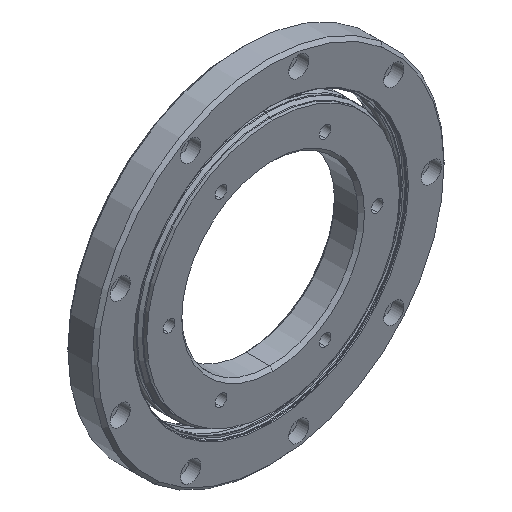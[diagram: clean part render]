
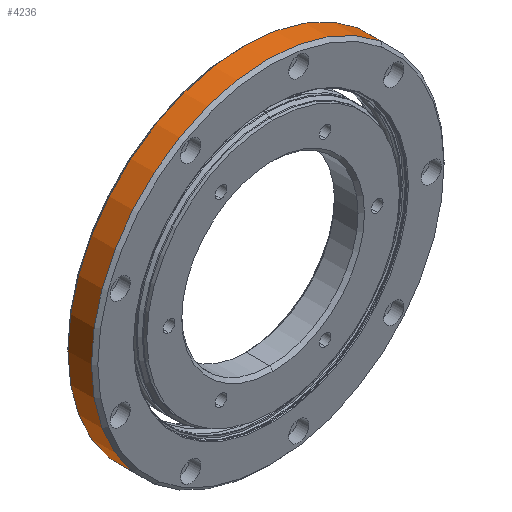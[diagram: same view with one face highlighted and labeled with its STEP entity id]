
A CAD part, isometric view. The second image highlights one B-rep face of the part: STEP entity #4236.
In plain terms, the highlighted cylindrical face has radius 82.55 mm (diameter 165.1 mm), a partial arc.
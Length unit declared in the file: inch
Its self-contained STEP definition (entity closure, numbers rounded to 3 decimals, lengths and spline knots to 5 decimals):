
#159 = DIRECTION ( 'NONE',  ( 0., -1., 0. ) ) ;
#534 = VERTEX_POINT ( 'NONE', #4100 ) ;
#637 = ORIENTED_EDGE ( 'NONE', *, *, #1142, .T. ) ;
#708 = ORIENTED_EDGE ( 'NONE', *, *, #3329, .T. ) ;
#962 = LINE ( 'NONE', #2940, #3757 ) ;
#963 = CYLINDRICAL_SURFACE ( 'NONE', #4409, 3.25 ) ;
#1033 = ORIENTED_EDGE ( 'NONE', *, *, #1224, .F. ) ;
#1088 = CARTESIAN_POINT ( 'NONE',  ( 0., 0., 0. ) ) ;
#1142 = EDGE_CURVE ( 'NONE', #2821, #534, #4098, .T. ) ;
#1176 = CIRCLE ( 'NONE', #1601, 3.25 ) ;
#1224 = EDGE_CURVE ( 'NONE', #1583, #1805, #962, .T. ) ;
#1238 = ORIENTED_EDGE ( 'NONE', *, *, #4380, .T. ) ;
#1430 = DIRECTION ( 'NONE',  ( 0., -1., 0. ) ) ;
#1583 = VERTEX_POINT ( 'NONE', #2888 ) ;
#1601 = AXIS2_PLACEMENT_3D ( 'NONE', #4126, #2015, #4475 ) ;
#1805 = VERTEX_POINT ( 'NONE', #1936 ) ;
#1811 = EDGE_LOOP ( 'NONE', ( #1033, #708, #637, #1238 ) ) ;
#1890 = CARTESIAN_POINT ( 'NONE',  ( 0., 0.09843, 0. ) ) ;
#1936 = CARTESIAN_POINT ( 'NONE',  ( 0., 0.09843, 3.25 ) ) ;
#2015 = DIRECTION ( 'NONE',  ( 0., -1., 0. ) ) ;
#2065 = CARTESIAN_POINT ( 'NONE',  ( 0., 0.5315, -3.25 ) ) ;
#2231 = VECTOR ( 'NONE', #159, 39.37008 ) ;
#2256 = DIRECTION ( 'NONE',  ( 0., 0., -1. ) ) ;
#2440 = CARTESIAN_POINT ( 'NONE',  ( 0., 0., -3.25 ) ) ;
#2648 = DIRECTION ( 'NONE',  ( 0., -1., 0. ) ) ;
#2821 = VERTEX_POINT ( 'NONE', #2065 ) ;
#2888 = CARTESIAN_POINT ( 'NONE',  ( 0., 0.5315, 3.25 ) ) ;
#2940 = CARTESIAN_POINT ( 'NONE',  ( 0., 0., 3.25 ) ) ;
#3221 = CIRCLE ( 'NONE', #3617, 3.25 ) ;
#3329 = EDGE_CURVE ( 'NONE', #1583, #2821, #1176, .T. ) ;
#3617 = AXIS2_PLACEMENT_3D ( 'NONE', #1890, #4353, #2256 ) ;
#3757 = VECTOR ( 'NONE', #2648, 39.37008 ) ;
#3758 = FACE_OUTER_BOUND ( 'NONE', #1811, .T. ) ;
#4098 = LINE ( 'NONE', #2440, #2231 ) ;
#4100 = CARTESIAN_POINT ( 'NONE',  ( 0., 0.09843, -3.25 ) ) ;
#4126 = CARTESIAN_POINT ( 'NONE',  ( 0., 0.5315, 0. ) ) ;
#4231 = DIRECTION ( 'NONE',  ( 0., 0., -1. ) ) ;
#4236 = ADVANCED_FACE ( 'NONE', ( #3758 ), #963, .T. ) ;
#4353 = DIRECTION ( 'NONE',  ( 0., 1., 0. ) ) ;
#4380 = EDGE_CURVE ( 'NONE', #534, #1805, #3221, .T. ) ;
#4409 = AXIS2_PLACEMENT_3D ( 'NONE', #1088, #1430, #4231 ) ;
#4475 = DIRECTION ( 'NONE',  ( 0., 0., -1. ) ) ;
